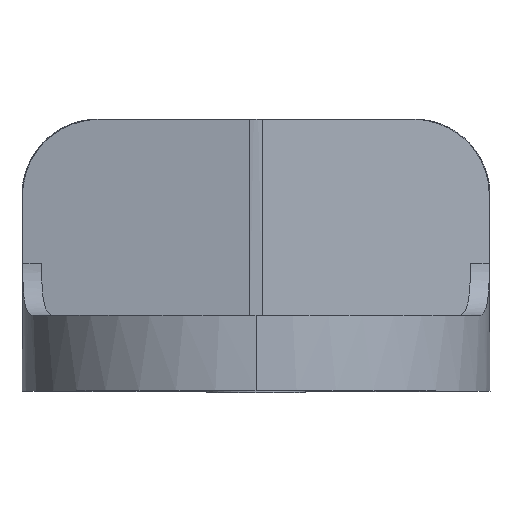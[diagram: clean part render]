
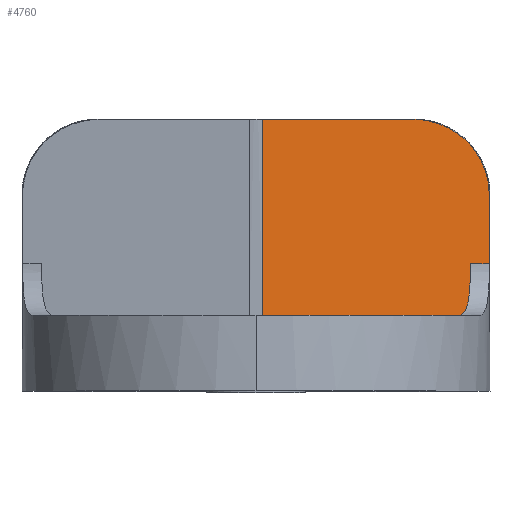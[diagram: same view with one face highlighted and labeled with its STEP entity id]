
A CAD part, top view. The second image highlights one B-rep face of the part: STEP entity #4760.
In plain terms, the highlighted planar face has unit normal (0.136, 0, 0.991).
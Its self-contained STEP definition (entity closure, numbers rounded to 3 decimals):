
#48 = VERTEX_POINT ( 'NONE', #778 ) ;
#129 = LINE ( 'NONE', #605, #147 ) ;
#143 = CARTESIAN_POINT ( 'NONE',  ( 4.173, 1., 3.466 ) ) ;
#147 = VECTOR ( 'NONE', #6314, 1000. ) ;
#168 = CARTESIAN_POINT ( 'NONE',  ( 18.437, 15.011, 1.512 ) ) ;
#205 = EDGE_CURVE ( 'NONE', #3064, #4543, #6586, .T. ) ;
#325 = EDGE_CURVE ( 'NONE', #5014, #4342, #129, .T. ) ;
#394 = VECTOR ( 'NONE', #6594, 1000. ) ;
#401 = CARTESIAN_POINT ( 'NONE',  ( 18.197, 15.571, 1.545 ) ) ;
#469 = DIRECTION ( 'NONE',  ( -0.991, 0., 0.136 ) ) ;
#538 = EDGE_CURVE ( 'NONE', #2205, #48, #5798, .T. ) ;
#555 = LINE ( 'NONE', #1096, #4841 ) ;
#605 = CARTESIAN_POINT ( 'NONE',  ( 18.844, 7.25, 1.456 ) ) ;
#649 = CARTESIAN_POINT ( 'NONE',  ( 2.929, 18.925, 3.636 ) ) ;
#725 = VECTOR ( 'NONE', #2917, 1000. ) ;
#778 = CARTESIAN_POINT ( 'NONE',  ( 6.85, 2.286, 3.099 ) ) ;
#783 = VERTEX_POINT ( 'NONE', #3492 ) ;
#801 = VECTOR ( 'NONE', #469, 1000. ) ;
#811 = LINE ( 'NONE', #2334, #725 ) ;
#849 = CARTESIAN_POINT ( 'NONE',  ( 17.128, 17.043, 1.691 ) ) ;
#952 = VERTEX_POINT ( 'NONE', #143 ) ;
#978 = DIRECTION ( 'NONE',  ( 0., -1., 0. ) ) ;
#1058 = VECTOR ( 'NONE', #3236, 1000. ) ;
#1096 = CARTESIAN_POINT ( 'NONE',  ( 4.173, 18.925, 3.466 ) ) ;
#1253 = ORIENTED_EDGE ( 'NONE', *, *, #538, .F. ) ;
#1259 = CARTESIAN_POINT ( 'NONE',  ( 5.922, 2.286, 3.226 ) ) ;
#1316 = ORIENTED_EDGE ( 'NONE', *, *, #6194, .T. ) ;
#1355 = CARTESIAN_POINT ( 'NONE',  ( 6.85, 1., 3.099 ) ) ;
#1384 = CARTESIAN_POINT ( 'NONE',  ( 12.995, 18.925, 2.257 ) ) ;
#1442 = VERTEX_POINT ( 'NONE', #2772 ) ;
#1458 = ORIENTED_EDGE ( 'NONE', *, *, #3627, .F. ) ;
#1500 = VECTOR ( 'NONE', #2131, 1000. ) ;
#1677 = CARTESIAN_POINT ( 'NONE',  ( 18.844, 12.825, 1.456 ) ) ;
#1742 = ORIENTED_EDGE ( 'NONE', *, *, #2151, .F. ) ;
#1765 = LINE ( 'NONE', #1259, #4616 ) ;
#1791 = CARTESIAN_POINT ( 'NONE',  ( 18.508, 14.818, 1.502 ) ) ;
#1848 = CARTESIAN_POINT ( 'NONE',  ( 18.844, 18.925, 1.456 ) ) ;
#1860 = CARTESIAN_POINT ( 'NONE',  ( 18.001, 15.924, 1.571 ) ) ;
#1984 = CARTESIAN_POINT ( 'NONE',  ( 18.844, 7.25, 1.456 ) ) ;
#1998 = ORIENTED_EDGE ( 'NONE', *, *, #6687, .F. ) ;
#2108 = VERTEX_POINT ( 'NONE', #2245 ) ;
#2112 = EDGE_CURVE ( 'NONE', #783, #3334, #5892, .T. ) ;
#2131 = DIRECTION ( 'NONE',  ( 0., -1., 0. ) ) ;
#2144 = DIRECTION ( 'NONE',  ( -0.991, 0., 0.136 ) ) ;
#2151 = EDGE_CURVE ( 'NONE', #48, #3334, #1765, .T. ) ;
#2203 = CARTESIAN_POINT ( 'NONE',  ( 18.802, 13.638, 1.462 ) ) ;
#2205 = VERTEX_POINT ( 'NONE', #1355 ) ;
#2245 = CARTESIAN_POINT ( 'NONE',  ( 17.32, 1., 1.665 ) ) ;
#2255 = VECTOR ( 'NONE', #5785, 1000. ) ;
#2318 = VERTEX_POINT ( 'NONE', #3622 ) ;
#2334 = CARTESIAN_POINT ( 'NONE',  ( 0.543, 14.489, 3.963 ) ) ;
#2344 = ORIENTED_EDGE ( 'NONE', *, *, #2112, .T. ) ;
#2399 = CARTESIAN_POINT ( 'NONE',  ( 0.543, 18.925, 3.963 ) ) ;
#2467 = CARTESIAN_POINT ( 'NONE',  ( 15.689, 18.15, 1.888 ) ) ;
#2478 = ORIENTED_EDGE ( 'NONE', *, *, #2976, .F. ) ;
#2684 = LINE ( 'NONE', #6292, #2255 ) ;
#2701 = EDGE_CURVE ( 'NONE', #5014, #2108, #3112, .T. ) ;
#2772 = CARTESIAN_POINT ( 'NONE',  ( 12.589, 18.925, 2.313 ) ) ;
#2796 = VECTOR ( 'NONE', #3735, 1000. ) ;
#2869 = LINE ( 'NONE', #1848, #6069 ) ;
#2917 = DIRECTION ( 'NONE',  ( 0., 1., 0. ) ) ;
#2927 = CARTESIAN_POINT ( 'NONE',  ( 18.844, 18.925, 1.456 ) ) ;
#2976 = EDGE_CURVE ( 'NONE', #4233, #1442, #2869, .T. ) ;
#2995 = DIRECTION ( 'NONE',  ( -0.991, 0., 0.136 ) ) ;
#3064 = VERTEX_POINT ( 'NONE', #3574 ) ;
#3112 = LINE ( 'NONE', #5169, #3988 ) ;
#3236 = DIRECTION ( 'NONE',  ( 0., 1., 0. ) ) ;
#3260 = CARTESIAN_POINT ( 'NONE',  ( 18.844, 12.825, 1.456 ) ) ;
#3304 = DIRECTION ( 'NONE',  ( 0., 1., 0. ) ) ;
#3334 = VERTEX_POINT ( 'NONE', #3901 ) ;
#3338 = CARTESIAN_POINT ( 'NONE',  ( 0.543, 1., 3.963 ) ) ;
#3355 = CARTESIAN_POINT ( 'NONE',  ( 13.397, 18.888, 2.202 ) ) ;
#3384 = CARTESIAN_POINT ( 'NONE',  ( 17.655, 16.424, 1.619 ) ) ;
#3414 = ORIENTED_EDGE ( 'NONE', *, *, #5996, .F. ) ;
#3452 = CARTESIAN_POINT ( 'NONE',  ( 12.589, 18.925, 2.313 ) ) ;
#3492 = CARTESIAN_POINT ( 'NONE',  ( 5.553, 1., 3.277 ) ) ;
#3526 = AXIS2_PLACEMENT_3D ( 'NONE', #4544, #6634, #2995 ) ;
#3574 = CARTESIAN_POINT ( 'NONE',  ( 2.929, 1., 3.636 ) ) ;
#3622 = CARTESIAN_POINT ( 'NONE',  ( 2.929, 2.286, 3.636 ) ) ;
#3627 = EDGE_CURVE ( 'NONE', #2108, #2205, #2684, .T. ) ;
#3647 = EDGE_CURVE ( 'NONE', #5736, #1442, #4810, .T. ) ;
#3673 = LINE ( 'NONE', #5729, #5058 ) ;
#3694 = EDGE_CURVE ( 'NONE', #4543, #4233, #811, .T. ) ;
#3735 = DIRECTION ( 'NONE',  ( 0.991, 0., -0.136 ) ) ;
#3872 = CARTESIAN_POINT ( 'NONE',  ( 17.32, 7.25, 1.665 ) ) ;
#3875 = VERTEX_POINT ( 'NONE', #5711 ) ;
#3901 = CARTESIAN_POINT ( 'NONE',  ( 5.553, 2.286, 3.277 ) ) ;
#3911 = DIRECTION ( 'NONE',  ( 0.991, 0., -0.136 ) ) ;
#3920 = CARTESIAN_POINT ( 'NONE',  ( 14.583, 18.627, 2.04 ) ) ;
#3988 = VECTOR ( 'NONE', #978, 1000. ) ;
#4062 = ORIENTED_EDGE ( 'NONE', *, *, #205, .F. ) ;
#4098 = EDGE_LOOP ( 'NONE', ( #6312, #6561, #2478, #6659, #4062, #1998, #1316, #4645, #3414, #2344, #1742, #1253, #1458, #4797, #6453 ) ) ;
#4233 = VERTEX_POINT ( 'NONE', #2399 ) ;
#4334 = CARTESIAN_POINT ( 'NONE',  ( 18.844, 2.286, 1.456 ) ) ;
#4342 = VERTEX_POINT ( 'NONE', #1984 ) ;
#4361 = CARTESIAN_POINT ( 'NONE',  ( 18.844, 13.235, 1.456 ) ) ;
#4392 = CARTESIAN_POINT ( 'NONE',  ( 17.267, 16.896, 1.672 ) ) ;
#4526 = CARTESIAN_POINT ( 'NONE',  ( 14.191, 18.739, 2.093 ) ) ;
#4543 = VERTEX_POINT ( 'NONE', #3338 ) ;
#4544 = CARTESIAN_POINT ( 'NONE',  ( 18.844, 18.925, 1.456 ) ) ;
#4616 = VECTOR ( 'NONE', #2144, 1000. ) ;
#4645 = ORIENTED_EDGE ( 'NONE', *, *, #6165, .F. ) ;
#4702 = LINE ( 'NONE', #649, #1500 ) ;
#4760 = ADVANCED_FACE ( 'NONE', ( #6673 ), #5659, .F. ) ;
#4797 = ORIENTED_EDGE ( 'NONE', *, *, #2701, .F. ) ;
#4810 = B_SPLINE_CURVE_WITH_KNOTS ( 'NONE', 3,
 ( #3260, #4361, #2203, #5313, #6422, #1791, #168, #401, #1860, #3384, #6493, #4392, #849, #4902, #5951, #2467, #5508, #3920, #4526, #3355, #1384, #3452 ),
 .UNSPECIFIED., .F., .F.,
 ( 4, 2, 2, 2, 2, 2, 2, 2, 2, 2, 4 ),
 ( 0., 0.001, 0.002, 0.002, 0.004, 0.004, 0.005, 0.006, 0.007, 0.008, 0.01 ),
 .UNSPECIFIED. ) ;
#4841 = VECTOR ( 'NONE', #5219, 1000. ) ;
#4846 = CARTESIAN_POINT ( 'NONE',  ( 5.553, 2.286, 3.277 ) ) ;
#4902 = CARTESIAN_POINT ( 'NONE',  ( 16.693, 17.461, 1.751 ) ) ;
#5014 = VERTEX_POINT ( 'NONE', #3872 ) ;
#5046 = LINE ( 'NONE', #2927, #394 ) ;
#5058 = VECTOR ( 'NONE', #5255, 1000. ) ;
#5085 = EDGE_CURVE ( 'NONE', #5736, #4342, #5046, .T. ) ;
#5099 = CARTESIAN_POINT ( 'NONE',  ( 0.543, 1., 3.963 ) ) ;
#5169 = CARTESIAN_POINT ( 'NONE',  ( 17.32, 3.05, 1.665 ) ) ;
#5219 = DIRECTION ( 'NONE',  ( 0., 1., 0. ) ) ;
#5222 = VECTOR ( 'NONE', #3304, 1000. ) ;
#5255 = DIRECTION ( 'NONE',  ( -0.991, 0., 0.136 ) ) ;
#5313 = CARTESIAN_POINT ( 'NONE',  ( 18.68, 14.233, 1.478 ) ) ;
#5383 = LINE ( 'NONE', #4334, #2796 ) ;
#5508 = CARTESIAN_POINT ( 'NONE',  ( 15.331, 18.332, 1.937 ) ) ;
#5659 = PLANE ( 'NONE',  #3526 ) ;
#5711 = CARTESIAN_POINT ( 'NONE',  ( 4.173, 2.286, 3.466 ) ) ;
#5729 = CARTESIAN_POINT ( 'NONE',  ( 0.543, 1., 3.963 ) ) ;
#5736 = VERTEX_POINT ( 'NONE', #1677 ) ;
#5785 = DIRECTION ( 'NONE',  ( -0.991, 0., 0.136 ) ) ;
#5798 = LINE ( 'NONE', #6303, #5222 ) ;
#5892 = LINE ( 'NONE', #4846, #1058 ) ;
#5951 = CARTESIAN_POINT ( 'NONE',  ( 16.376, 17.711, 1.794 ) ) ;
#5996 = EDGE_CURVE ( 'NONE', #783, #952, #3673, .T. ) ;
#6069 = VECTOR ( 'NONE', #3911, 1000. ) ;
#6165 = EDGE_CURVE ( 'NONE', #952, #3875, #555, .T. ) ;
#6194 = EDGE_CURVE ( 'NONE', #2318, #3875, #5383, .T. ) ;
#6292 = CARTESIAN_POINT ( 'NONE',  ( 0.543, 1., 3.963 ) ) ;
#6303 = CARTESIAN_POINT ( 'NONE',  ( 6.85, 18.925, 3.099 ) ) ;
#6312 = ORIENTED_EDGE ( 'NONE', *, *, #5085, .F. ) ;
#6314 = DIRECTION ( 'NONE',  ( 0.991, 0., -0.136 ) ) ;
#6422 = CARTESIAN_POINT ( 'NONE',  ( 18.63, 14.429, 1.485 ) ) ;
#6453 = ORIENTED_EDGE ( 'NONE', *, *, #325, .T. ) ;
#6493 = CARTESIAN_POINT ( 'NONE',  ( 17.53, 16.587, 1.636 ) ) ;
#6561 = ORIENTED_EDGE ( 'NONE', *, *, #3647, .T. ) ;
#6586 = LINE ( 'NONE', #5099, #801 ) ;
#6594 = DIRECTION ( 'NONE',  ( 0., -1., 0. ) ) ;
#6634 = DIRECTION ( 'NONE',  ( -0.136, 0., -0.991 ) ) ;
#6659 = ORIENTED_EDGE ( 'NONE', *, *, #3694, .F. ) ;
#6673 = FACE_OUTER_BOUND ( 'NONE', #4098, .T. ) ;
#6687 = EDGE_CURVE ( 'NONE', #2318, #3064, #4702, .T. ) ;
